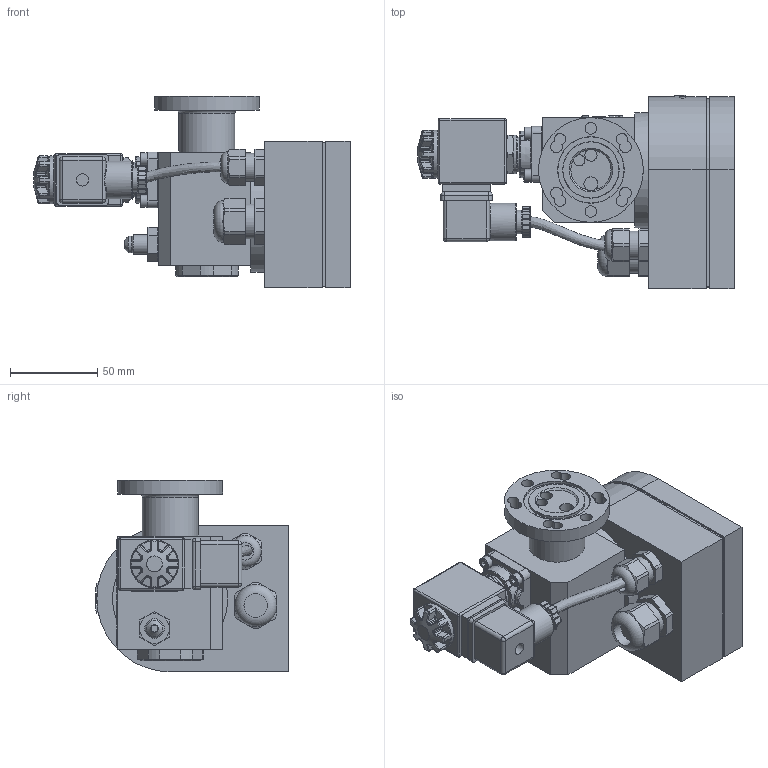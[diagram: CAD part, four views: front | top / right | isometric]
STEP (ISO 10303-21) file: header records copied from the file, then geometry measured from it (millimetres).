
FILE_DESCRIPTION(/* description */ (''),/* implementation_level */ '2;1');
FILE_NAME(/* name */ 'P:\ORE_ERM\ERM5-0-BC-R717\ERM5-0-BC-R717.stp',/* time_stamp */ '2017-12-14T08:18:23+01:00',/* author */ ('neufeld'),/* organization */ (''),/* preprocessor_version */ 'ST-DEVELOPER v16.1',/* originating_system */ 'Autodesk Inventor 2016',/* authorisation */ '');
FILE_SCHEMA (('AUTOMOTIVE_DESIGN { 1 0 10303 214 3 1 1 }'));
Products named in the file (1): ERM5-0-BC-R717_AG-Kunde
Bounding box: 181.11 x 111 x 109.81 mm (x, y, z)
Volume: 806813.4 mm3; surface area: 84314.3 mm2
Topology: 1 solids, 1 shells, 2017 faces, 5119 edges, 3251 vertices
Faces by surface type: plane 960, bspline 587, cylinder 245, torus 113, cone 60, sphere 52
Full cylindrical faces by diameter (mm): 4 x1, 6.4 x1, 6.7 x2, 7 x6, 8 x1, 9.1 x1, 9.4 x1, 10 x1, 10.5 x1, 11.112 x1, 13.5 x2, 16 x1, 20 x2, 20.5 x1, 21.5 x1, 22 x1, 24.2 x1, 27.5 x1, 32 x1, 32.35 x1, 37.95 x1, 60 x1, 66 x1
Entity records: 73852 total; most frequent: CARTESIAN_POINT 28614, ORIENTED_EDGE 10086, DIRECTION 7461, EDGE_CURVE 5037, VERTEX_POINT 3226, LINE 2895, VECTOR 2895, AXIS2_PLACEMENT_3D 2283
